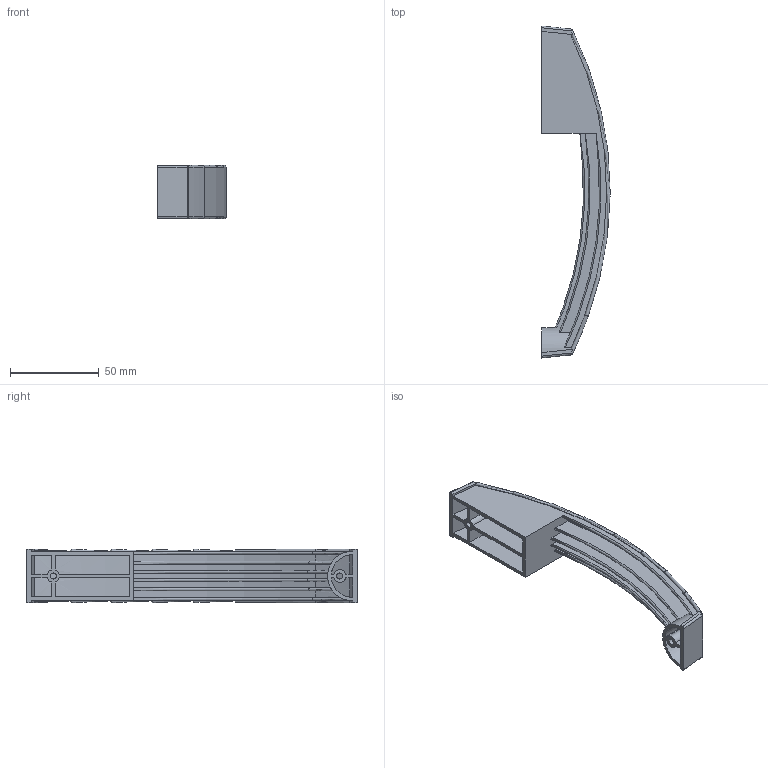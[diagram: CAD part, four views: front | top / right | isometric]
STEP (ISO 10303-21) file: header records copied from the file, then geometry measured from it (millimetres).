
FILE_DESCRIPTION((''),'2;1');
FILE_NAME('SHOUBING-LS532','2016-07-13T',('master'),(''),'PRO/ENGINEER BY PARAMETRIC TECHNOLOGY CORPORATION, 2009060','PRO/ENGINEER BY PARAMETRIC TECHNOLOGY CORPORATION, 2009060','');
FILE_SCHEMA(('CONFIG_CONTROL_DESIGN'));
Length unit declared in the file: millimetre
Products named in the file (1): SHOUBING-LS532
Bounding box: 38.4 x 186.5 x 30 mm (x, y, z)
Volume: 37214.4 mm3; surface area: 38642.7 mm2
Topology: 1 solids, 1 shells, 110 faces, 284 edges, 184 vertices
Faces by surface type: plane 47, cylinder 43, torus 16, sphere 4
Entity records: 3627 total; most frequent: CARTESIAN_POINT 888, ORIENTED_EDGE 568, DIRECTION 566, EDGE_CURVE 284, AXIS2_PLACEMENT_3D 215, VERTEX_POINT 184, VECTOR 136, LINE 136
